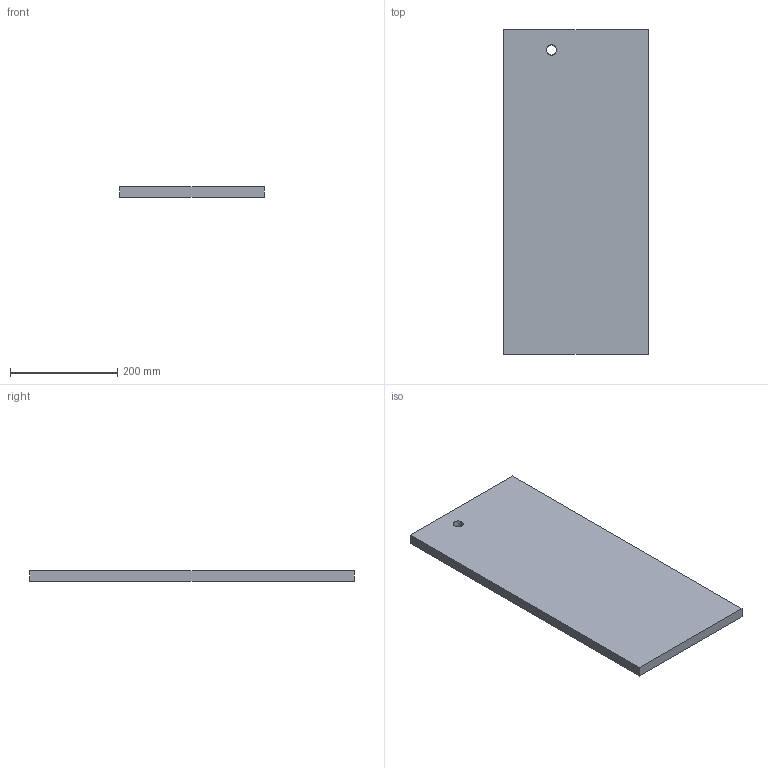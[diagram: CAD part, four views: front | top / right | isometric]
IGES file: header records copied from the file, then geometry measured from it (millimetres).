
Start section:  PTC IGES file: l5_33w_door_r.igs
Global section: file name: l5_33w_door_r.igs; native system: Creo Parametric by Parametric Technology Corporation; preprocessor: 2014310; author: apappas; organization: Unknown; date: 20150316.083656; units: inch
Bounding box: 269.08 x 604.84 x 19.05 mm (x, y, z)
Volume: 3068079.5 mm3; surface area: 363430.8 mm2
Topology: 1 solids, 1 shells, 26 faces, 54 edges, 36 vertices
Faces by surface type: bspline 26
